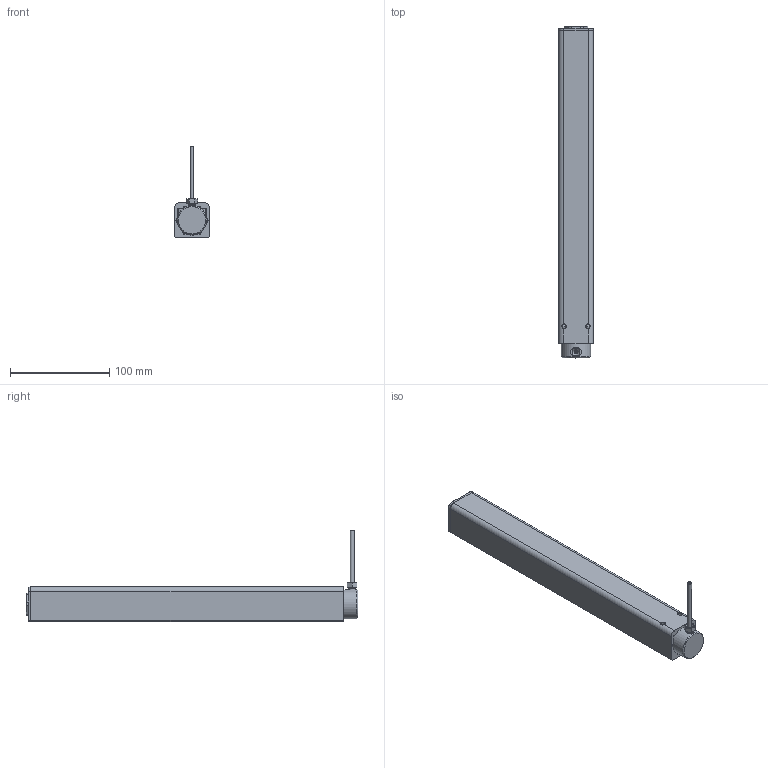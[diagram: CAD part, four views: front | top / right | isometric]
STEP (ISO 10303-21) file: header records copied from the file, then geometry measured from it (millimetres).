
FILE_DESCRIPTION(/* description */ ('Unknown'),/* implementation_level */ '2;1');
FILE_NAME(/* name */ '106.20182 Lineareinheit LA 1820 R_eingefahren',/* time_stamp */ '2017-10-06T10:18:44+02:00',/* author */ ('Unknown'),/* organization */ ('Unknown'),/* preprocessor_version */ 'ST-DEVELOPER v16.7',/* originating_system */ 'DEX',/* authorisation */ $);
FILE_SCHEMA (('AUTOMOTIVE_DESIGN {1 0 10303 214 3 1 1}'));
Products named in the file (11): 106.20182; 119.00002; 142.00014; 142.00021; 125.00021; 115.00008; 125.00062; 122.00018; 125.00051; 123.00002; 113.00002_70mm
Assembly tree (11 placements, depth 2):
  106.20182
    119.00002
    142.00014  x2
    142.00021
    125.00021
    115.00008
    125.00062
    122.00018
    125.00051
    123.00002
    113.00002_70mm
Bounding box: 35 x 334 x 91.75 mm (x, y, z)
Volume: 253459.6 mm3; surface area: 162535.2 mm2
Topology: 10 solids, 10 shells, 810 faces, 1896 edges, 1132 vertices
Faces by surface type: cylinder 280, bspline 224, plane 214, cone 50, torus 29, sphere 13
Full cylindrical faces by diameter (mm): 2.2 x1, 3.5 x2, 4 x7, 4.1 x1, 4.134 x4, 4.2 x1, 6.647 x1, 6.917 x2, 8 x2, 8.376 x1, 14.4 x1, 17.3 x1, 17.9 x2, 19 x2, 20.8 x3, 21 x1, 25 x1, 29.5 x2, 30.63 x1
Entity records: 76151 total; most frequent: CARTESIAN_POINT 59516, ORIENTED_EDGE 3508, DIRECTION 2671, EDGE_CURVE 1754, VERTEX_POINT 1077, AXIS2_PLACEMENT_3D 1047, FACE_BOUND 921, EDGE_LOOP 919
